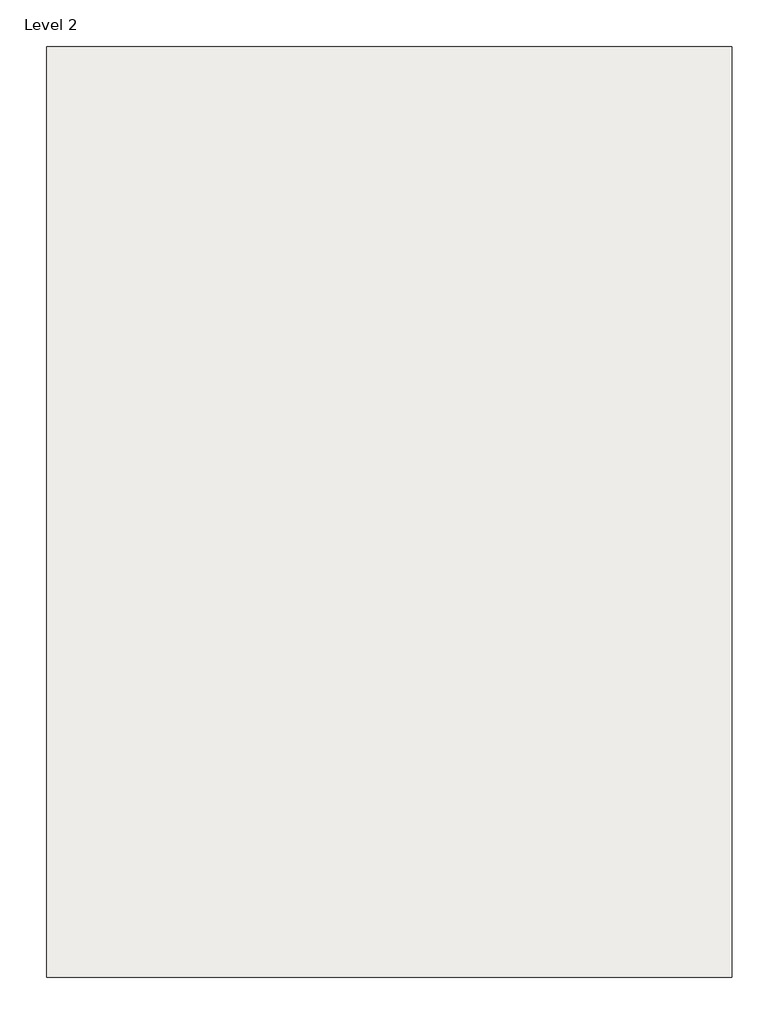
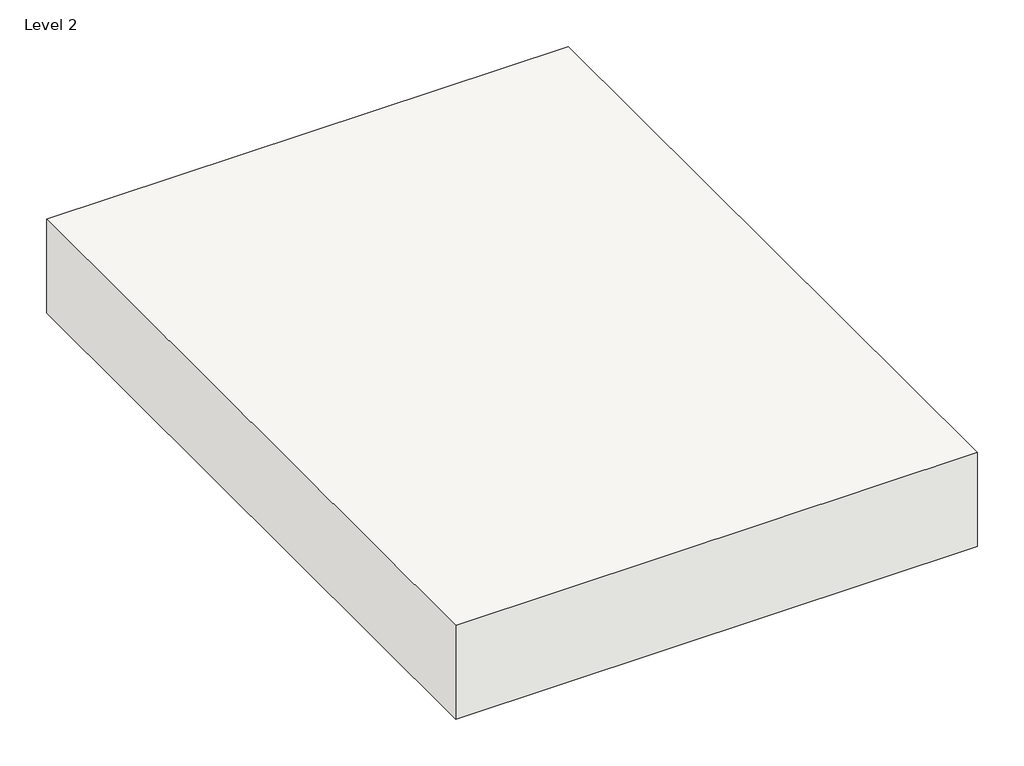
# One storey: 1 slab.
"""IFC4 building model written with IfcOpenShell, lengths in millimetres."""

from ifc_helpers import new_model, si_unit, frame, origin, place, context, project, spatial, polyline, outline, extrude, element, save

model = new_model("IFC4")

# Units and contexts
model_context = context("Model", 3, world=origin())
ifc_project = project(units=[si_unit("LENGTHUNIT", "METRE", prefix="MILLI")], contexts=[model_context])

# Site, building, storey
site = spatial("IfcSite", under=ifc_project)
building = spatial("IfcBuilding", under=site)
storey = spatial("IfcBuildingStorey", under=building, Name="Level 2", Elevation=3200.0)

# Slab
placement = place(None, origin())
element("IfcSlab", 1, ObjectType="Generic 400mm", at=placement, inside=storey, context=model_context, shape_type="SweptSolid", body=[
    extrude(outline(polyline([(-2387.6715386, 1960.0517789), (-287.6715386, 1960.0517789), (-287.6715386, -889.9482211), (-2387.6715386, -889.9482211), (-2387.6715386, 1960.0517789)])), frame((0.0, 0.0, 2800.0), z_axis=(0.0, 0.0, 1.0), x_axis=(1.0, 0.0, 0.0)), (0.0, 0.0, 1.0), 400.0),
])

save(model, "model.ifc")
